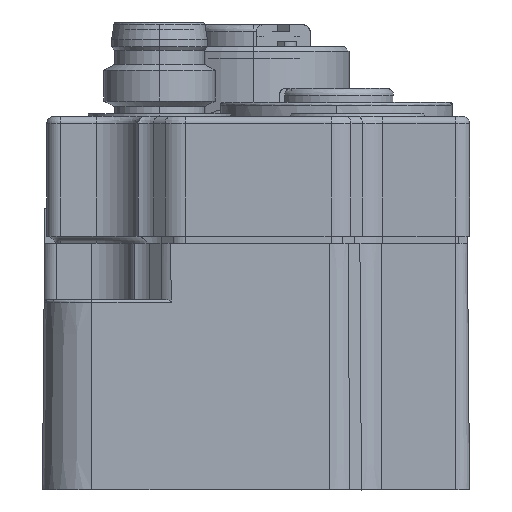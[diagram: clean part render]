
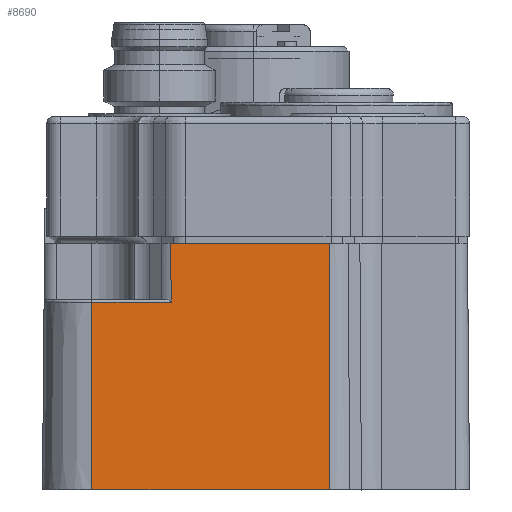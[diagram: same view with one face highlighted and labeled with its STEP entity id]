
A CAD part, front view. The second image highlights one B-rep face of the part: STEP entity #8690.
In plain terms, the highlighted planar face has unit normal (0, -1, 0.009).
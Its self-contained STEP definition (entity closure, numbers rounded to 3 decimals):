
#5778 = VERTEX_POINT ( 'NONE', #29263 ) ;
#5781 = VERTEX_POINT ( 'NONE', #29266 ) ;
#6544 = B_SPLINE_CURVE_WITH_KNOTS ( 'NONE', 3,
 ( #17437, #17426, #17429, #17439 ),
 .UNSPECIFIED., .F., .F.,
 ( 4, 4 ),
 ( 0., 1. ),
 .UNSPECIFIED. ) ;
#8690 = ADVANCED_FACE ( 'NONE', ( #40354 ), #42497, .T. ) ;
#16338 = DIRECTION ( 'NONE',  ( -1., 0., 0. ) ) ;
#16347 = CARTESIAN_POINT ( 'NONE',  ( 11.134, 0.153, 5.811 ) ) ;
#16587 = CARTESIAN_POINT ( 'NONE',  ( -5.75, 0., -11.689 ) ) ;
#16589 = DIRECTION ( 'NONE',  ( 0., -0.009, -1. ) ) ;
#16616 = DIRECTION ( 'NONE',  ( 1., 0., 0. ) ) ;
#16617 = CARTESIAN_POINT ( 'NONE',  ( 5.901, 0., -11.689 ) ) ;
#17212 = VERTEX_POINT ( 'NONE', #63602 ) ;
#17426 = CARTESIAN_POINT ( 'NONE',  ( -0.158, 0.14, 4.395 ) ) ;
#17429 = CARTESIAN_POINT ( 'NONE',  ( -0.128, 0.129, 3.061 ) ) ;
#17437 = CARTESIAN_POINT ( 'NONE',  ( -0.188, 0.153, 5.811 ) ) ;
#17439 = CARTESIAN_POINT ( 'NONE',  ( -0.098, 0.118, 1.811 ) ) ;
#17628 = CARTESIAN_POINT ( 'NONE',  ( 11.134, 0.116, 1.613 ) ) ;
#17630 = DIRECTION ( 'NONE',  ( -1., 0., 0. ) ) ;
#17692 = CARTESIAN_POINT ( 'NONE',  ( 11.134, 0., -11.689 ) ) ;
#17700 = DIRECTION ( 'NONE',  ( 0., 0.009, 1. ) ) ;
#17764 = CARTESIAN_POINT ( 'NONE',  ( -0.098, 0.118, 1.811 ) ) ;
#17767 = DIRECTION ( 'NONE',  ( 0.024, -0.009, -1. ) ) ;
#18073 = LINE ( 'NONE', #16587, #18077 ) ;
#18077 = VECTOR ( 'NONE', #16589, 1000. ) ;
#18093 = LINE ( 'NONE', #16617, #18097 ) ;
#18097 = VECTOR ( 'NONE', #16616, 1000. ) ;
#18333 = LINE ( 'NONE', #17628, #18338 ) ;
#18338 = VECTOR ( 'NONE', #17630, 1000. ) ;
#18344 = LINE ( 'NONE', #17692, #18352 ) ;
#18352 = VECTOR ( 'NONE', #17700, 1000. ) ;
#18365 = LINE ( 'NONE', #17764, #18367 ) ;
#18367 = VECTOR ( 'NONE', #17767, 1000. ) ;
#24928 = CARTESIAN_POINT ( 'NONE',  ( -0.098, 0.118, 1.811 ) ) ;
#24939 = CARTESIAN_POINT ( 'NONE',  ( 11.134, 0.153, 5.811 ) ) ;
#24940 = CARTESIAN_POINT ( 'NONE',  ( -0.188, 0.153, 5.811 ) ) ;
#24942 = CARTESIAN_POINT ( 'NONE',  ( 11.134, 0., -11.689 ) ) ;
#29263 = CARTESIAN_POINT ( 'NONE',  ( -0.093, 0.116, 1.613 ) ) ;
#29266 = CARTESIAN_POINT ( 'NONE',  ( -5.75, 0.116, 1.613 ) ) ;
#29796 = EDGE_CURVE ( 'NONE', #38133, #39134, #62766, .T. ) ;
#29838 = EDGE_CURVE ( 'NONE', #5781, #17212, #18073, .T. ) ;
#29844 = EDGE_CURVE ( 'NONE', #17212, #38645, #18093, .T. ) ;
#29978 = EDGE_CURVE ( 'NONE', #39134, #38002, #6544, .T. ) ;
#30004 = EDGE_CURVE ( 'NONE', #5778, #5781, #18333, .T. ) ;
#30014 = EDGE_CURVE ( 'NONE', #38645, #38133, #18344, .T. ) ;
#30026 = EDGE_CURVE ( 'NONE', #38002, #5778, #18365, .T. ) ;
#38002 = VERTEX_POINT ( 'NONE', #24928 ) ;
#38133 = VERTEX_POINT ( 'NONE', #24939 ) ;
#38645 = VERTEX_POINT ( 'NONE', #24942 ) ;
#39134 = VERTEX_POINT ( 'NONE', #24940 ) ;
#40354 = FACE_OUTER_BOUND ( 'NONE', #54522, .T. ) ;
#42492 = CARTESIAN_POINT ( 'NONE',  ( 11.134, 0., -11.689 ) ) ;
#42497 = PLANE ( 'NONE',  #44320 ) ;
#42500 = DIRECTION ( 'NONE',  ( 0., -1., 0.009 ) ) ;
#42501 = DIRECTION ( 'NONE',  ( 0., -0.009, -1. ) ) ;
#44320 = AXIS2_PLACEMENT_3D ( 'NONE', #42492, #42500, #42501 ) ;
#52229 = ORIENTED_EDGE ( 'NONE', *, *, #29796, .T. ) ;
#52230 = ORIENTED_EDGE ( 'NONE', *, *, #29978, .T. ) ;
#52232 = ORIENTED_EDGE ( 'NONE', *, *, #30026, .T. ) ;
#52233 = ORIENTED_EDGE ( 'NONE', *, *, #30004, .T. ) ;
#52235 = ORIENTED_EDGE ( 'NONE', *, *, #29838, .T. ) ;
#52237 = ORIENTED_EDGE ( 'NONE', *, *, #29844, .T. ) ;
#52239 = ORIENTED_EDGE ( 'NONE', *, *, #30014, .T. ) ;
#54522 = EDGE_LOOP ( 'NONE', ( #52229, #52230, #52232, #52233, #52235, #52237, #52239 ) ) ;
#62766 = LINE ( 'NONE', #16347, #62768 ) ;
#62768 = VECTOR ( 'NONE', #16338, 1000. ) ;
#63602 = CARTESIAN_POINT ( 'NONE',  ( -5.75, 0., -11.689 ) ) ;
